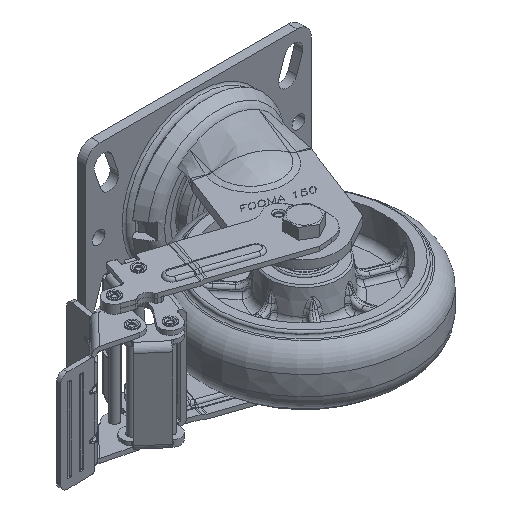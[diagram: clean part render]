
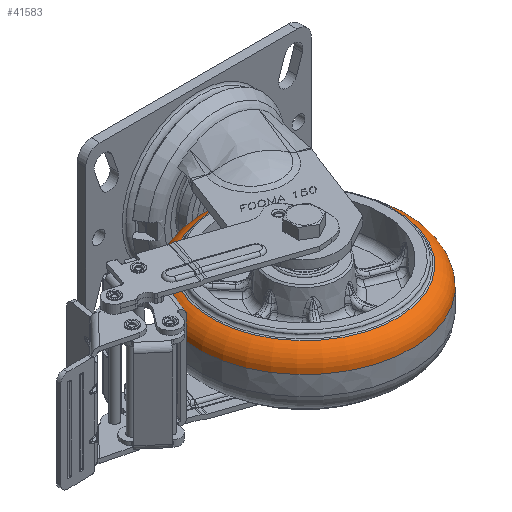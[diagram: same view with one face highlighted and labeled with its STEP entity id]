
A CAD part, isometric view. The second image highlights one B-rep face of the part: STEP entity #41583.
In plain terms, the highlighted toroidal (fillet/blend) face has major radius 59.865 mm and minor radius 15 mm.
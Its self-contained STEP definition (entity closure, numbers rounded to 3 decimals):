
#1328=TOROIDAL_SURFACE('',#44715,59.865,15.);
#9463=FACE_BOUND('',#13734,.T.);
#11214=FACE_OUTER_BOUND('',#13733,.T.);
#13733=EDGE_LOOP('',(#33831));
#13734=EDGE_LOOP('',(#33832,#33833));
#15102=CIRCLE('',#44714,64.78);
#15103=CIRCLE('',#44716,74.85);
#15104=CIRCLE('',#44717,74.85);
#18450=VERTEX_POINT('',#68691);
#18451=VERTEX_POINT('',#68694);
#18452=VERTEX_POINT('',#68695);
#23640=EDGE_CURVE('',#18450,#18450,#15102,.T.);
#23641=EDGE_CURVE('',#18451,#18452,#15103,.T.);
#23642=EDGE_CURVE('',#18452,#18451,#15104,.T.);
#33831=ORIENTED_EDGE('',*,*,#23640,.T.);
#33832=ORIENTED_EDGE('',*,*,#23641,.F.);
#33833=ORIENTED_EDGE('',*,*,#23642,.F.);
#41583=ADVANCED_FACE('',(#11214,#9463),#1328,.T.);
#44714=AXIS2_PLACEMENT_3D('',#68692,#54071,#54072);
#44715=AXIS2_PLACEMENT_3D('',#68693,#54073,#54074);
#44716=AXIS2_PLACEMENT_3D('',#68696,#54075,#54076);
#44717=AXIS2_PLACEMENT_3D('',#68697,#54077,#54078);
#54071=DIRECTION('center_axis',(0.,0.,
-1.));
#54072=DIRECTION('ref_axis',(-0.999,-0.039,0.));
#54073=DIRECTION('center_axis',(0.,0.,
-1.));
#54074=DIRECTION('ref_axis',(-0.999,-0.039,0.));
#54075=DIRECTION('center_axis',(0.,0.,
-1.));
#54076=DIRECTION('ref_axis',(-0.999,-0.039,0.));
#54077=DIRECTION('center_axis',(0.,0.,
-1.));
#54078=DIRECTION('ref_axis',(-0.999,-0.039,0.));
#68691=CARTESIAN_POINT('',(-34.912,-40.879,20.209));
#68692=CARTESIAN_POINT('Origin',(-32.37,-105.609,20.209));
#68693=CARTESIAN_POINT('Origin',(-32.37,-105.609,6.037));
#68694=CARTESIAN_POINT('',(-35.308,-30.817,6.708));
#68695=CARTESIAN_POINT('',(42.422,-102.672,6.708));
#68696=CARTESIAN_POINT('Origin',(-32.37,-105.609,6.708));
#68697=CARTESIAN_POINT('Origin',(-32.37,-105.609,6.708));
